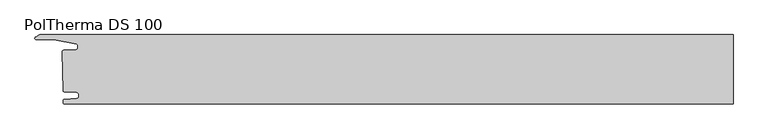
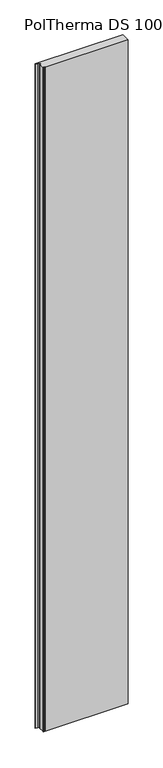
"""IFC4 building model written with IfcOpenShell, lengths in millimetres: plate geometry, Europanels_Poltherma DS_Vt : PolTherma DS 100."""

from ifc_helpers import new_model, si_unit, point, frame_2d, origin, origin_with_axes, place, context, project, spatial, polyline, circle_curve, trimmed, segment, composite_curve, outline, extrude, source, transform, mapped, element, save


def poltherma_ds_100_38a92bd1(model_context):
    return source(origin(), model_context, "Body", "SweptSolid", [
        extrude(outline(composite_curve([segment(polyline([(512.5, 50.0), (512.5, -50.0), (-450.7176533, -50.0)]), True, "CONTINUOUS"), segment(trimmed(circle_curve(frame_2d((-450.7176533, -48.0)), 2.0), [point((-450.7176533, -50.0))], [point((-452.7176533, -48.0))], False, "CARTESIAN"), True, "CONTINUOUS"), segment(polyline([(-452.7176533, -48.0), (-452.7176533, -45.2728415)]), True, "CONTINUOUS"), segment(trimmed(circle_curve(frame_2d((-450.7176533, -45.2728415)), 2.0), [point((-452.7176533, -45.2728415))], [point((-450.9214713, -43.283254))], False, "CARTESIAN"), True, "CONTINUOUS"), segment(polyline([(-450.9214713, -43.283254), (-432.9087496, -42.3087485)]), True, "CONTINUOUS"), segment(trimmed(circle_curve(frame_2d((-433.2144766, -39.3243673)), 3.0), [point((-432.9087496, -42.3087485))], [point((-430.2144766, -39.3243673))], True, "CARTESIAN"), True, "CONTINUOUS"), segment(polyline([(-430.2144766, -39.3243673), (-430.2144766, -36.3756985)]), True, "CONTINUOUS"), segment(trimmed(circle_curve(frame_2d((-433.2144766, -36.3756985)), 3.0), [point((-430.2144766, -36.3756985))], [point((-432.8949489, -33.3927633))], True, "CARTESIAN"), True, "CONTINUOUS"), segment(polyline([(-432.8949489, -33.3927633), (-451.1540445, -32.3401385)]), True, "CONTINUOUS"), segment(trimmed(circle_curve(frame_2d((-450.9676533, -30.600093)), 1.75), [point((-451.1540445, -32.3401385))], [point((-452.7176533, -30.600093))], False, "CARTESIAN"), True, "CONTINUOUS"), segment(polyline([(-452.7176533, -30.600093), (-454.2176533, 25.1828499)]), True, "CONTINUOUS"), segment(trimmed(circle_curve(frame_2d((-451.7176533, 25.1828499)), 2.5), [point((-454.2176533, 25.1828499))], [point((-451.8103891, 27.6811293))], False, "CARTESIAN"), True, "CONTINUOUS"), segment(polyline([(-451.8103891, 27.6811293), (-434.0363992, 28.3408974)]), True, "CONTINUOUS"), segment(trimmed(circle_curve(frame_2d((-434.2144766, 30.834547)), 2.5), [point((-434.0363992, 28.3408974))], [point((-431.7144766, 30.834547))], True, "CARTESIAN"), True, "CONTINUOUS"), segment(polyline([(-431.7144766, 30.834547), (-431.7144766, 34.241537)]), True, "CONTINUOUS"), segment(trimmed(circle_curve(frame_2d((-434.2144766, 34.241537)), 2.5), [point((-431.7144766, 34.241537))], [point((-433.360119, 36.5910205))], True, "CARTESIAN"), True, "CONTINUOUS"), segment(polyline([(-433.360119, 36.5910205), (-466.3990445, 43.0), (-491.5403652, 43.0)]), True, "CONTINUOUS"), segment(trimmed(circle_curve(frame_2d((-491.5403652, 45.0)), 2.0), [point((-491.5403652, 43.0))], [point((-492.5374515, 46.7337298))], False, "CARTESIAN"), True, "CONTINUOUS"), segment(polyline([(-492.5374515, 46.7337298), (-486.8580735, 50.0), (512.5, 50.0)]), True, "CONTINUOUS")], self_intersect=False)), origin_with_axes(), (0.0, 0.0, 1.0), 8000.0),
    ])


if __name__ == "__main__":
    model = new_model("IFC4")
    model_context = context("Model", 3, world=origin())
    ifc_project = project(units=[si_unit("LENGTHUNIT", "METRE", prefix="MILLI")], contexts=[model_context])
    site = spatial("IfcSite", under=ifc_project)
    building = spatial("IfcBuilding", under=site)
    placement = place(None, origin())
    poltherma_ds_100_shape = poltherma_ds_100_38a92bd1(model_context)
    element("IfcPlate", 1, ObjectType="Europanels_Poltherma DS_Vt : PolTherma DS 100", at=placement, inside=building, context=model_context, shape_type="MappedRepresentation", body=[
        mapped(poltherma_ds_100_shape, transform((0.0, 0.0, 0.0), x_axis=(1.0, 0.0, 0.0), y_axis=(0.0, 1.0, 0.0), z_axis=(0.0, 0.0, 1.0))),
    ])
    save(model, "model.ifc")
